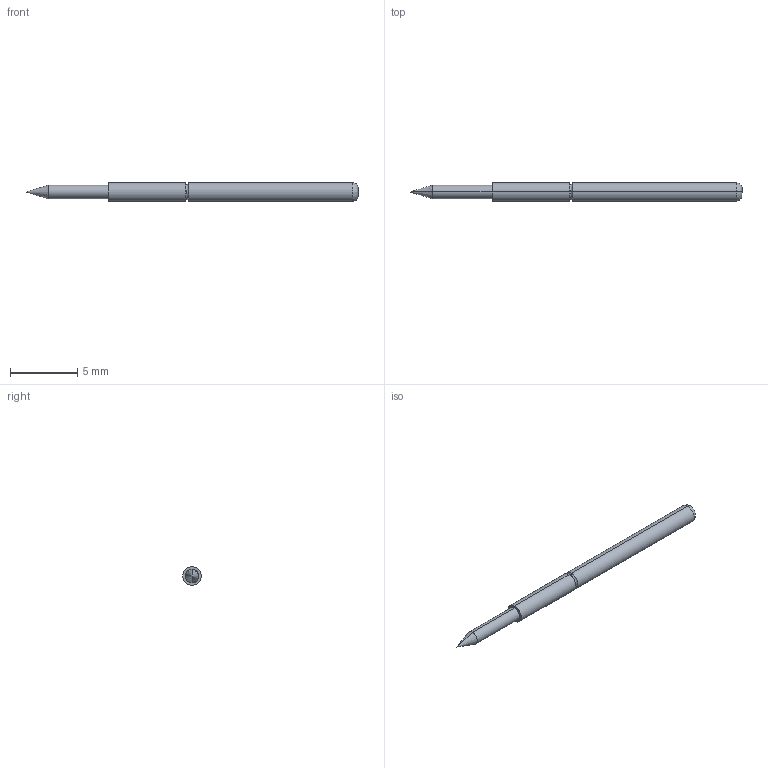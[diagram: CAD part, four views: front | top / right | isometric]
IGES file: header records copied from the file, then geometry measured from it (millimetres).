
Start section: SolidWorks IGES file using analytic representation for surfaces
Global section: file name: O:\PYLON\IGES FILES\P3158\P3158G-3C1S.IGS; native system: SolidWorks 2015; preprocessor: SolidWorks 2015; author: kgolden; date: 171020.060820; units: inch
Bounding box: 24.64 x 1.37 x 1.37 mm (x, y, z)
Surface area: 103.7 mm2 (no closed solid volume)
Topology: 0 solids, 0 shells, 18 faces, 112 edges, 110 vertices
Faces by surface type: revolution 10, bspline 8
